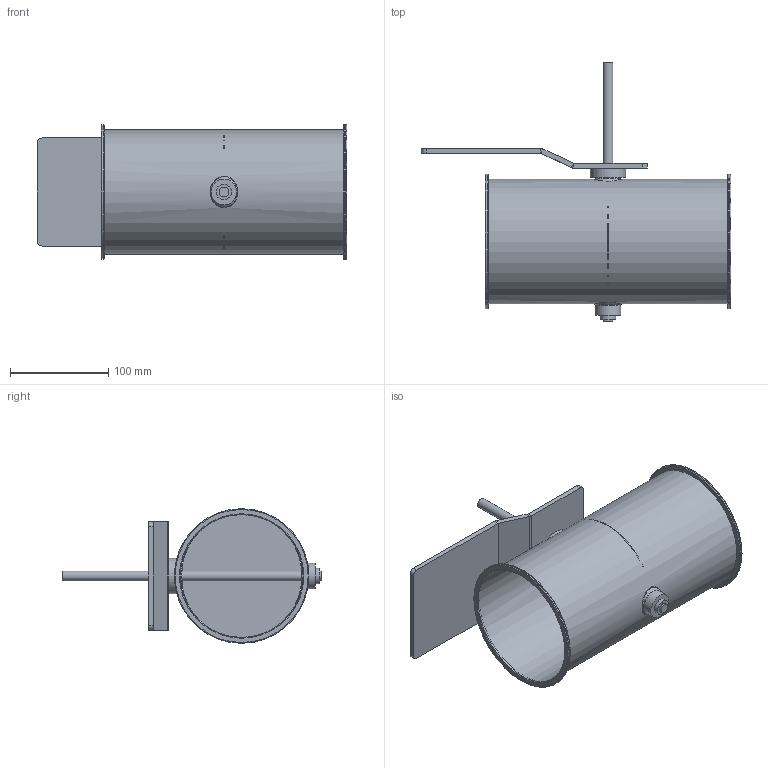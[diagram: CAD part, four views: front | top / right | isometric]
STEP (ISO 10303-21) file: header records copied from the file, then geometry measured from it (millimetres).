
FILE_DESCRIPTION(/* description */ (''),/* implementation_level */ '2;1');
FILE_NAME(/* name */ 'EA122-80B__125_L250_Belimo_Typen_NF_SF.stp',/* time_stamp */ '2017-12-05T13:52:07+01:00',/* author */ (''),/* organization */ (''),/* preprocessor_version */ 'ST-DEVELOPER v11',/* originating_system */ 'SIEMENS UGS NX 6.0',/* authorisation */ '');
FILE_SCHEMA (('CONFIG_CONTROL_DESIGN'));
Length unit declared in the file: millimetre
Products named in the file (1): gars1E3Bhij9
Bounding box: 315 x 264 x 137 mm (x, y, z)
Volume: 269419.2 mm3; surface area: 303322.9 mm2
Topology: 8 solids, 8 shells, 92 faces, 193 edges, 125 vertices
Faces by surface type: plane 42, cylinder 32, torus 10, cone 4, bspline 4
Full cylindrical faces by diameter (mm): 4.1 x4, 10 x3, 15 x3, 15.85 x2, 16 x2, 24 x2, 26 x1, 36 x1, 125 x1, 126.6 x1, 137 x2
Entity records: 2816 total; most frequent: CARTESIAN_POINT 965, DIRECTION 382, ORIENTED_EDGE 268, AXIS2_PLACEMENT_3D 167, EDGE_LOOP 164, FACE_BOUND 134, EDGE_CURVE 134, VERTEX_POINT 106
